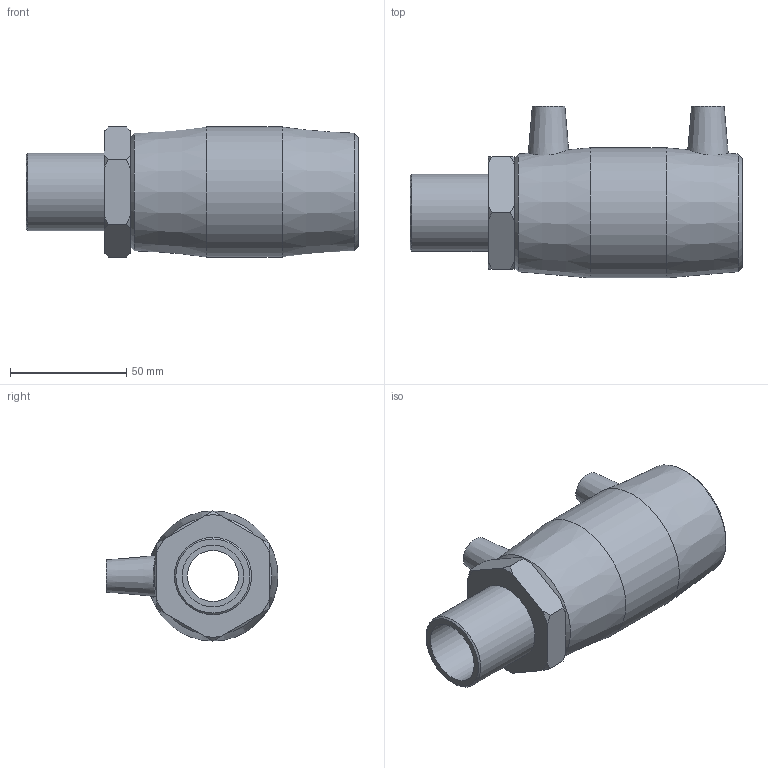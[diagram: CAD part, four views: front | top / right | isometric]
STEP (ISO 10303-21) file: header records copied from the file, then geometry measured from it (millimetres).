
FILE_DESCRIPTION(/* description */ ('PLASSON Male Transition Coupler 40 x 1"'),/* implementation_level */ '2;1');
FILE_NAME(/* name */ 'C:\Dropbox\KIMPROJECTS-Inventor\99-16-3568-Processing\ElectroFusion Fittings\02.02.20\492104\492104040010N.ipt.stp',/* time_stamp */ '2020-02-02T12:18:56+02:00',/* author */ ('KIM'),/* organization */ (''),/* preprocessor_version */ 'ST-DEVELOPER v15.6',/* originating_system */ 'Autodesk Inventor 2015',/* authorisation */ '');
FILE_SCHEMA (('AUTOMOTIVE_DESIGN { 1 0 10303 214 3 1 1 }'));
Length unit declared in the file: millimetre
Products named in the file (1): 492104040010N
Bounding box: 143 x 74 x 56 mm (x, y, z)
Volume: 178785.4 mm3; surface area: 44766.1 mm2
Topology: 1 solids, 2 shells, 54 faces, 118 edges, 77 vertices
Faces by surface type: plane 21, cone 21, cylinder 12
Full cylindrical faces by diameter (mm): 4 x2, 10 x2, 22 x1, 26.599 x1, 33.249 x1, 40 x4, 56 x1
Entity records: 1386 total; most frequent: CARTESIAN_POINT 329, DIRECTION 218, ORIENTED_EDGE 178, AXIS2_PLACEMENT_3D 100, EDGE_LOOP 90, EDGE_CURVE 89, VERTEX_POINT 71, FACE_OUTER_BOUND 54
